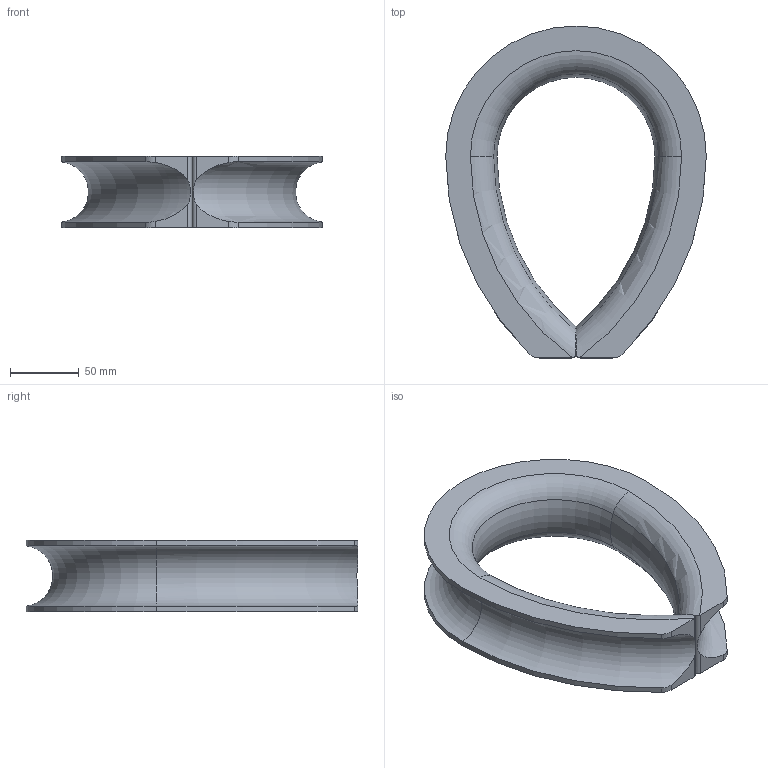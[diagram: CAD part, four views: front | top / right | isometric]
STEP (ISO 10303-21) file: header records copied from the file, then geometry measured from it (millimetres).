
FILE_DESCRIPTION(/* description */ (''),/* implementation_level */ '2;1');
FILE_NAME(/* name */ 'C:\Users\D\Documents\Inventor\各種小物\JIS\シンブル\A形\44.stp',/* time_stamp */ '2022-06-17T16:50:02+09:00',/* author */ ('D'),/* organization */ (''),/* preprocessor_version */ 'ST-DEVELOPER v18',/* originating_system */ 'Autodesk Inventor 2020',/* authorisation */ '');
FILE_SCHEMA (('AUTOMOTIVE_DESIGN { 1 0 10303 214 3 1 1 }'));
Length unit declared in the file: millimetre
Products named in the file (1): 6
Bounding box: 190 x 242 x 52 mm (x, y, z)
Volume: 608027.4 mm3; surface area: 104814 mm2
Topology: 1 solids, 1 shells, 32 faces, 84 edges, 54 vertices
Faces by surface type: torus 12, cylinder 12, plane 8
Entity records: 1261 total; most frequent: CARTESIAN_POINT 435, ORIENTED_EDGE 168, DIRECTION 168, EDGE_CURVE 84, AXIS2_PLACEMENT_3D 73, VERTEX_POINT 54, CIRCLE 40, FACE_OUTER_BOUND 32
